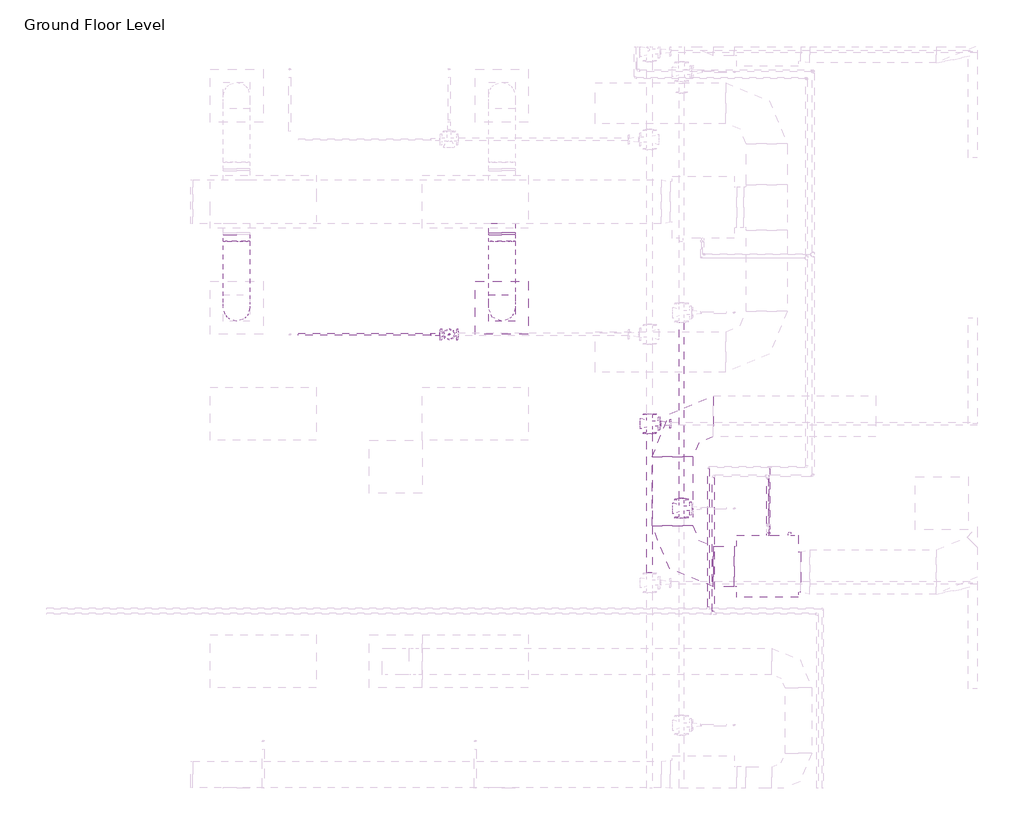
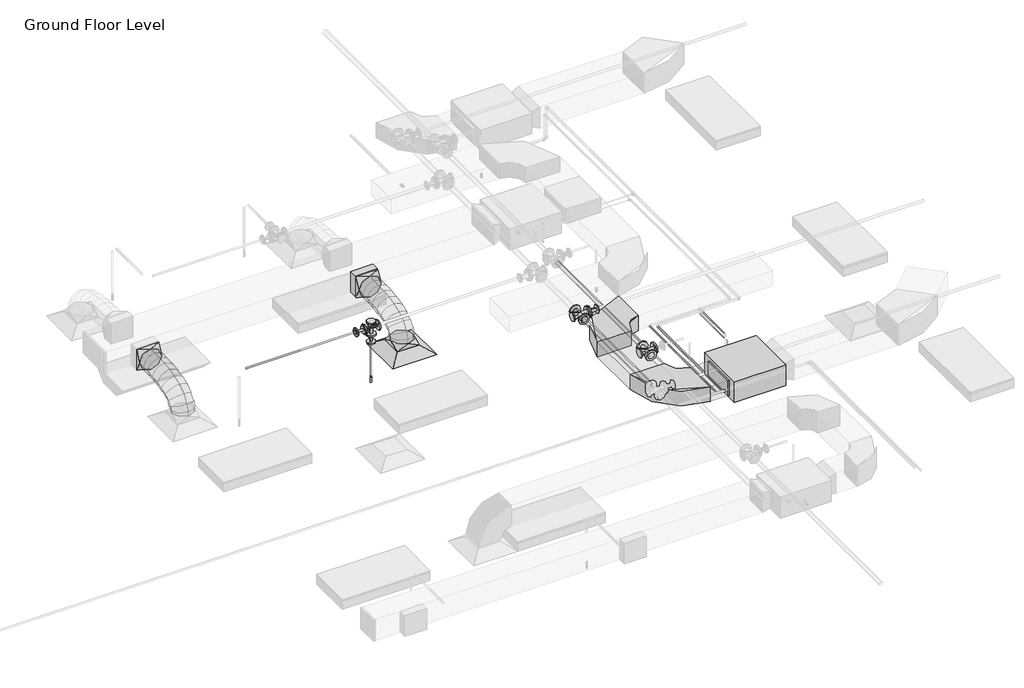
# One storey, part 59 of 74: 10 pipe segments, 7 pipe fittings, 6 duct fittings, 5 duct segments, 1 air terminal, 1 fire suppression terminal, 1 proxy.
"""IFC4 building model written with IfcOpenShell, lengths in millimetres."""

from ifc_helpers import new_model, si_unit, point, frame, frame_2d, origin, place, context, project, spatial, polyline, circle_curve, ellipse_curve, trimmed, segment, composite_curve, outline, extrude, transform, mapped, element, save
from ifc_brep_helpers import plane_surface, cylinder_surface, advanced_brep
from components import m_return_diffuser_600_x_600_face_300_x_300_connection_ff221211, fcu_daikin_iu_bad131e0, m_rectangular_elbow_radius_1_w_54c96895, m_rectangular_takeoff_standard_cb0ccb98, m_rectangular_to_round_transition_angle_45_degree_641efff0, m_sprinkler_dry_pendent_hosted_15_mm_dry_pendent_9bda8e11, m_elbow_generic_standard_2a704253, m_reducer_flanged_cs_class_150_standard_ccf252ad, m_reducer_flanged_cs_class_150_standard_a7631c35, m_tee_round_base_flanged_cs_class_150_standard_dd767e04, m_tee_round_base_flanged_cs_class_150_standard_7e5987a1, m_tee_round_base_flanged_cs_class_150_standard_ab36f383

model = new_model("IFC4")

# Units and contexts
model_context = context("Model", 3, world=origin())
ifc_project = project(units=[si_unit("LENGTHUNIT", "METRE", prefix="MILLI")], contexts=[model_context])

# Site, building, storey
site = spatial("IfcSite", under=ifc_project)
building = spatial("IfcBuilding", under=site)
storey = spatial("IfcBuildingStorey", under=building, Name="Ground Floor Level", Elevation=900.0)

# Air terminal
placement = place(None, origin())
m_return_diffuser_600_x_600_face_300_x_300_connection_shape = m_return_diffuser_600_x_600_face_300_x_300_connection_ff221211(model_context)
element("IfcAirTerminal", 1, ObjectType="M_Supply Diffuser : 600 x 600 Face 300 x 300 Connection", at=placement, inside=storey, context=model_context, shape_type="MappedRepresentation", body=[
    mapped(m_return_diffuser_600_x_600_face_300_x_300_connection_shape, transform((3962.7672395, 2935.2153534, 3650.0), x_axis=(1.0, 0.0, 0.0), y_axis=(0.0, 1.0, 0.0), z_axis=(0.0, 0.0, 1.0))),
])

# Proxy
fcu_daikin_iu_shape = fcu_daikin_iu_bad131e0(model_context)
element("IfcBuildingElementProxy", 2, Name="FCU-DAIKIN IU : 4.5kW, 230V/50Hz/1Ph", ObjectType="FCU-DAIKIN IU : 4.5kW, 230V/50Hz/1Ph", at=placement, inside=storey, context=model_context, shape_type="MappedRepresentation", body=[
    mapped(fcu_daikin_iu_shape, transform((6968.8139492, 9.6779527, 3934.0932729), x_axis=(0.0, 1.0, 0.0), y_axis=(-1.0, 0.0, 0.0), z_axis=(0.0, 0.0, 1.0))),
])

# Duct fittings
m_rectangular_elbow_radius_1_w_shape = m_rectangular_elbow_radius_1_w_54c96895(model_context)
element("IfcDuctFitting", 3, ObjectType="M_Rectangular Elbow - Radius : 1 W", at=placement, inside=storey, context=model_context, shape_type="MappedRepresentation", body=[
    mapped(m_rectangular_elbow_radius_1_w_shape, transform((5893.4139492, 9.6779527, 4075.2932729), x_axis=(0.0, -1.0, 0.0), y_axis=(1.0, 0.0, 0.0), z_axis=(0.0, 0.0, 1.0))),
])
element("IfcDuctFitting", 4, ObjectType="M_Rectangular Elbow - Radius : 1 W", at=placement, inside=storey, context=model_context, shape_type="MappedRepresentation", body=[
    mapped(m_rectangular_elbow_radius_1_w_shape, transform((5893.4139492, 1709.6783949, 4075.2932729), x_axis=(-1.0, 0.0, 0.0), y_axis=(0.0, -1.0, 0.0), z_axis=(0.0, 0.0, 1.0))),
])
m_rectangular_takeoff_standard_shape = m_rectangular_takeoff_standard_cb0ccb98(model_context)
element("IfcDuctFitting", 5, ObjectType="M_Rectangular Takeoff : Standard", at=placement, inside=storey, context=model_context, shape_type="MappedRepresentation", body=[
    mapped(m_rectangular_takeoff_standard_shape, transform((3962.7672395, 3885.0199167, 4099.9957478), x_axis=(0.0, -1.0, 0.0), y_axis=(-1.0, 0.0, 0.0), z_axis=(0.0, 0.0, -1.0))),
])
m_rectangular_to_round_transition_angle_45_degree_shape = m_rectangular_to_round_transition_angle_45_degree_641efff0(model_context)
element("IfcDuctFitting", 6, ObjectType="M_Rectangular to Round Transition - Angle : 45 Degree", at=placement, inside=storey, context=model_context, shape_type="MappedRepresentation", body=[
    mapped(m_rectangular_to_round_transition_angle_45_degree_shape, transform((3962.7672395, 2935.2153534, 3751.6), x_axis=(0.0, 0.0, 1.0), y_axis=(-1.0, 0.0, 0.0), z_axis=(0.0, -1.0, 0.0))),
])
element("IfcDuctFitting", 7, ObjectType="M_Rectangular to Round Transition - Angle : 45 Degree", at=placement, inside=storey, context=model_context, shape_type="MappedRepresentation", body=[
    mapped(m_rectangular_to_round_transition_angle_45_degree_shape, transform((3962.7672395, 3762.5555369, 4099.9957478), x_axis=(0.0, -1.0, 0.0), y_axis=(1.0, 0.0, 0.0), z_axis=(0.0, 0.0, 1.0))),
])
element("IfcDuctFitting", 8, ObjectType="M_Rectangular to Round Transition - Angle : 45 Degree", at=placement, inside=storey, context=model_context, shape_type="MappedRepresentation", body=[
    mapped(m_rectangular_to_round_transition_angle_45_degree_shape, transform((962.7672395, 3762.562617, 4099.9886676), x_axis=(0.0, -1.0, 0.0), y_axis=(1.0, 0.0, 0.0), z_axis=(0.0, 0.0, 1.0))),
])

# Duct segments
element("IfcDuctSegment", 9, ObjectType="Flex - Round", at=placement, inside=storey, context=model_context, shape_type="AdvancedBrep", body=[
    advanced_brep(
    [(4112.7672395, 2935.2153534, 3826.6), (3962.7672395, 2785.2153534, 3826.6), (3812.7672395, 2935.2153534, 3826.6), (3962.7672395, 3085.2153534, 3826.6), (4112.7672395, 2935.2153534, 3857.9378899), (3962.7672395, 2785.2153534, 3883.5813304), (3812.7672395, 2935.2153534, 3857.9378899), (3962.7672395, 3085.2153534, 3832.2944495), (4112.7672395, 2952.2314038, 3906.2506504), (3962.7672395, 2818.4936927, 3978.0667363), (3812.7672395, 2952.2314038, 3906.2506504), (3962.7672395, 3085.969115, 3834.4345644), (4112.7672395, 2999.4156052, 3968.7111185), (3962.7672395, 2895.2104338, 4079.6211427), (3812.7672395, 2999.4156052, 3968.7111185), (3962.7672395, 3103.6207766, 3857.8010943), (4112.7672395, 3070.9720324, 4016.0693384), (3962.7672395, 3002.0391237, 4150.3236188), (3812.7672395, 3070.9720324, 4016.0693384), (3962.7672395, 3139.9049411, 3881.8150579), (4112.7672395, 3161.1047605, 4050.413244), (3962.7672395, 3117.545251, 4194.3357287), (3812.7672395, 3161.1047605, 4050.413244), (3962.7672395, 3204.66427, 3906.4907592), (4112.7672395, 3264.0178643, 4073.8307693), (3962.7672395, 3237.4581287, 4221.6214946), (3812.7672395, 3264.0178643, 4073.8307693), (3962.7672395, 3290.5775999, 3926.0400441), (4112.7672395, 3373.9154189, 4088.4098484), (3962.7672395, 3358.7655495, 4237.7142137), (3812.7672395, 3373.9154189, 4088.4098484), (3962.7672395, 3389.0652883, 3939.1054831), (4112.7672395, 3485.0014992, 4096.2384151), (3962.7672395, 3477.4969747, 4246.0815706), (3812.7672395, 3485.0014992, 4096.2384151), (3962.7672395, 3492.5060238, 3946.3952596), (4112.7672395, 3591.4801802, 4099.4044036), (3962.7672395, 3588.7891594, 4249.3906816), (3812.7672395, 3591.4801802, 4099.4044036), (3962.7672395, 3594.1712011, 3949.4181256), (4112.7672395, 3687.5555369, 4099.9957478), (3962.7672395, 3688.47877, 3949.998589), (3812.7672395, 3687.5555369, 4099.9957478), (3962.7672395, 3686.6323039, 4249.9929065)],
    [
        (0, 1, circle_curve(frame((3962.7672395, 2935.2153534, 3826.6), z_axis=(0.0, 0.0, -1.0), x_axis=(1.0, 0.0, 0.0)), 150.0)),
        (1, 2, circle_curve(frame((3962.7672395, 2935.2153534, 3826.6), z_axis=(0.0, 0.0, -1.0), x_axis=(1.0, 0.0, 0.0)), 150.0)),
        (2, 3, circle_curve(frame((3962.7672395, 2935.2153534, 3826.6), z_axis=(0.0, 0.0, -1.0), x_axis=(1.0, 0.0, 0.0)), 150.0)),
        (3, 0, circle_curve(frame((3962.7672395, 2935.2153534, 3826.6), z_axis=(0.0, 0.0, -1.0), x_axis=(1.0, 0.0, 0.0)), 150.0)),
        (0, 4),
        (4, 5, ellipse_curve(frame((3962.7672395, 2935.2153534, 3857.9378899), z_axis=(0.0, -0.1685115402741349, -0.9856996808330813), x_axis=(0.0, 0.9856996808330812, -0.1685115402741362)), 152.1761678, 150.0)),
        (5, 1),
        (5, 6, ellipse_curve(frame((3962.7672395, 2935.2153534, 3857.9378899), z_axis=(0.0, -0.1685115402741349, -0.9856996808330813), x_axis=(0.0, 0.9856996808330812, -0.1685115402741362)), 152.1761678, 150.0)),
        (6, 2),
        (6, 7, ellipse_curve(frame((3962.7672395, 2935.2153534, 3857.9378899), z_axis=(0.0, -0.1685115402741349, -0.9856996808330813), x_axis=(0.0, 0.9856996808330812, -0.1685115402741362)), 152.1761678, 150.0)),
        (7, 3),
        (7, 4, ellipse_curve(frame((3962.7672395, 2935.2153534, 3857.9378899), z_axis=(0.0, -0.1685115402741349, -0.9856996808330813), x_axis=(0.0, 0.9856996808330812, -0.1685115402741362)), 152.1761678, 150.0)),
        (4, 8),
        (8, 9, ellipse_curve(frame((3962.7672395, 2952.2314038, 3906.2506504), z_axis=(0.0, -0.47309586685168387, -0.8810109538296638), x_axis=(0.0, 0.8810109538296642, -0.4730958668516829)), 151.8002819, 150.0)),
        (9, 5),
        (9, 10, ellipse_curve(frame((3962.7672395, 2952.2314038, 3906.2506504), z_axis=(0.0, -0.47309586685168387, -0.8810109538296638), x_axis=(0.0, 0.8810109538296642, -0.4730958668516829)), 151.8002819, 150.0)),
        (10, 6),
        (10, 11, ellipse_curve(frame((3962.7672395, 2952.2314038, 3906.2506504), z_axis=(0.0, -0.47309586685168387, -0.8810109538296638), x_axis=(0.0, 0.8810109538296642, -0.4730958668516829)), 151.8002819, 150.0)),
        (11, 7),
        (11, 8, ellipse_curve(frame((3962.7672395, 2952.2314038, 3906.2506504), z_axis=(0.0, -0.47309586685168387, -0.8810109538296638), x_axis=(0.0, 0.8810109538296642, -0.4730958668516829)), 151.8002819, 150.0)),
        (8, 12),
        (12, 13, ellipse_curve(frame((3962.7672395, 2999.4156052, 3968.7111185), z_axis=(0.0, -0.7287924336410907, -0.68473468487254), x_axis=(0.0, 0.6847346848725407, -0.7287924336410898)), 152.1832817, 150.0)),
        (13, 9),
        (13, 14, ellipse_curve(frame((3962.7672395, 2999.4156052, 3968.7111185), z_axis=(0.0, -0.7287924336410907, -0.68473468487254), x_axis=(0.0, 0.6847346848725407, -0.7287924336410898)), 152.1832817, 150.0)),
        (14, 10),
        (14, 15, ellipse_curve(frame((3962.7672395, 2999.4156052, 3968.7111185), z_axis=(0.0, -0.7287924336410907, -0.68473468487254), x_axis=(0.0, 0.6847346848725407, -0.7287924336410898)), 152.1832817, 150.0)),
        (15, 11),
        (15, 12, ellipse_curve(frame((3962.7672395, 2999.4156052, 3968.7111185), z_axis=(0.0, -0.7287924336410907, -0.68473468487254), x_axis=(0.0, 0.6847346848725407, -0.7287924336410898)), 152.1832817, 150.0)),
        (12, 16),
        (16, 17, ellipse_curve(frame((3962.7672395, 3070.9720324, 4016.0693384), z_axis=(0.0, -0.8895898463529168, -0.4567602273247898), x_axis=(0.0, 0.45676022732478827, -0.8895898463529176)), 150.9170558, 150.0)),
        (17, 13),
        (17, 18, ellipse_curve(frame((3962.7672395, 3070.9720324, 4016.0693384), z_axis=(0.0, -0.8895898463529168, -0.4567602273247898), x_axis=(0.0, 0.45676022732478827, -0.8895898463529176)), 150.9170558, 150.0)),
        (18, 14),
        (18, 19, ellipse_curve(frame((3962.7672395, 3070.9720324, 4016.0693384), z_axis=(0.0, -0.8895898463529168, -0.4567602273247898), x_axis=(0.0, 0.45676022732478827, -0.8895898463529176)), 150.9170558, 150.0)),
        (19, 15),
        (19, 16, ellipse_curve(frame((3962.7672395, 3070.9720324, 4016.0693384), z_axis=(0.0, -0.8895898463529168, -0.4567602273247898), x_axis=(0.0, 0.45676022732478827, -0.8895898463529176)), 150.9170558, 150.0)),
        (16, 20),
        (20, 21, ellipse_curve(frame((3962.7672395, 3161.1047605, 4050.413244), z_axis=(0.0, -0.9571228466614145, -0.28968233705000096), x_axis=(0.0, 0.2896823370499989, -0.9571228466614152)), 150.3699188, 150.0)),
        (21, 17),
        (21, 22, ellipse_curve(frame((3962.7672395, 3161.1047605, 4050.413244), z_axis=(0.0, -0.9571228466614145, -0.28968233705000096), x_axis=(0.0, 0.2896823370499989, -0.9571228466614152)), 150.3699188, 150.0)),
        (22, 18),
        (22, 23, ellipse_curve(frame((3962.7672395, 3161.1047605, 4050.413244), z_axis=(0.0, -0.9571228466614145, -0.28968233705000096), x_axis=(0.0, 0.2896823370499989, -0.9571228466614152)), 150.3699188, 150.0)),
        (23, 19),
        (23, 20, ellipse_curve(frame((3962.7672395, 3161.1047605, 4050.413244), z_axis=(0.0, -0.9571228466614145, -0.28968233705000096), x_axis=(0.0, 0.2896823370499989, -0.9571228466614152)), 150.3699188, 150.0)),
        (20, 24),
        (24, 25, ellipse_curve(frame((3962.7672395, 3264.0178643, 4073.8307693), z_axis=(0.0, -0.9842327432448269, -0.17687822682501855), x_axis=(0.0, 0.17687822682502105, -0.9842327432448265)), 150.1583099, 150.0)),
        (25, 21),
        (25, 26, ellipse_curve(frame((3962.7672395, 3264.0178643, 4073.8307693), z_axis=(0.0, -0.9842327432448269, -0.17687822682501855), x_axis=(0.0, 0.17687822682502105, -0.9842327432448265)), 150.1583099, 150.0)),
        (26, 22),
        (26, 27, ellipse_curve(frame((3962.7672395, 3264.0178643, 4073.8307693), z_axis=(0.0, -0.9842327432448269, -0.17687822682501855), x_axis=(0.0, 0.17687822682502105, -0.9842327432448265)), 150.1583099, 150.0)),
        (27, 23),
        (27, 24, ellipse_curve(frame((3962.7672395, 3264.0178643, 4073.8307693), z_axis=(0.0, -0.9842327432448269, -0.17687822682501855), x_axis=(0.0, 0.17687822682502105, -0.9842327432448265)), 150.1583099, 150.0)),
        (24, 28),
        (28, 29, ellipse_curve(frame((3962.7672395, 3373.9154189, 4088.4098484), z_axis=(0.0, -0.9948913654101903, -0.10095133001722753), x_axis=(0.0, 0.10095133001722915, -0.9948913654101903)), 150.0710233, 150.0)),
        (29, 25),
        (29, 30, ellipse_curve(frame((3962.7672395, 3373.9154189, 4088.4098484), z_axis=(0.0, -0.9948913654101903, -0.10095133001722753), x_axis=(0.0, 0.10095133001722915, -0.9948913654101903)), 150.0710233, 150.0)),
        (30, 26),
        (30, 31, ellipse_curve(frame((3962.7672395, 3373.9154189, 4088.4098484), z_axis=(0.0, -0.9948913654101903, -0.10095133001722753), x_axis=(0.0, 0.10095133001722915, -0.9948913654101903)), 150.0710233, 150.0)),
        (31, 27),
        (31, 28, ellipse_curve(frame((3962.7672395, 3373.9154189, 4088.4098484), z_axis=(0.0, -0.9948913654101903, -0.10095133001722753), x_axis=(0.0, 0.10095133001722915, -0.9948913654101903)), 150.0710233, 150.0)),
        (28, 32),
        (32, 33, ellipse_curve(frame((3962.7672395, 3485.0014992, 4096.2384151), z_axis=(0.0, -0.9987482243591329, -0.05001983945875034), x_axis=(0.0, 0.05001983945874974, -0.9987482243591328)), 150.0309606, 150.0)),
        (33, 29),
        (33, 34, ellipse_curve(frame((3962.7672395, 3485.0014992, 4096.2384151), z_axis=(0.0, -0.9987482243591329, -0.05001983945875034), x_axis=(0.0, 0.05001983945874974, -0.9987482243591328)), 150.0309606, 150.0)),
        (34, 30),
        (34, 35, ellipse_curve(frame((3962.7672395, 3485.0014992, 4096.2384151), z_axis=(0.0, -0.9987482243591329, -0.05001983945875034), x_axis=(0.0, 0.05001983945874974, -0.9987482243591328)), 150.0309606, 150.0)),
        (35, 31),
        (35, 32, ellipse_curve(frame((3962.7672395, 3485.0014992, 4096.2384151), z_axis=(0.0, -0.9987482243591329, -0.05001983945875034), x_axis=(0.0, 0.05001983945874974, -0.9987482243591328)), 150.0309606, 150.0)),
        (32, 36),
        (36, 37, ellipse_curve(frame((3962.7672395, 3591.4801802, 4099.4044036), z_axis=(0.0, -0.9998390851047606, -0.017938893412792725), x_axis=(0.0, 0.017938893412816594, -0.99983908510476)), 150.0104169, 150.0)),
        (37, 33),
        (37, 38, ellipse_curve(frame((3962.7672395, 3591.4801802, 4099.4044036), z_axis=(0.0, -0.9998390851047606, -0.017938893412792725), x_axis=(0.0, 0.017938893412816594, -0.99983908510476)), 150.0104169, 150.0)),
        (38, 34),
        (38, 39, ellipse_curve(frame((3962.7672395, 3591.4801802, 4099.4044036), z_axis=(0.0, -0.9998390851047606, -0.017938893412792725), x_axis=(0.0, 0.017938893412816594, -0.99983908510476)), 150.0104169, 150.0)),
        (39, 35),
        (39, 36, ellipse_curve(frame((3962.7672395, 3591.4801802, 4099.4044036), z_axis=(0.0, -0.9998390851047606, -0.017938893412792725), x_axis=(0.0, 0.017938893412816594, -0.99983908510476)), 150.0104169, 150.0)),
        (40, 41, circle_curve(frame((3962.7672395, 3687.5555369, 4099.9957478), z_axis=(0.0, 0.9999810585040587, 0.006154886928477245), x_axis=(1.0, 0.0, 0.0)), 150.0)),
        (41, 42, circle_curve(frame((3962.7672395, 3687.5555369, 4099.9957478), z_axis=(0.0, 0.9999810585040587, 0.006154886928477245), x_axis=(1.0, 0.0, 0.0)), 150.0)),
        (42, 43, circle_curve(frame((3962.7672395, 3687.5555369, 4099.9957478), z_axis=(0.0, 0.9999810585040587, 0.006154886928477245), x_axis=(1.0, 0.0, 0.0)), 150.0)),
        (43, 40, circle_curve(frame((3962.7672395, 3687.5555369, 4099.9957478), z_axis=(0.0, 0.9999810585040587, 0.006154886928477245), x_axis=(1.0, 0.0, 0.0)), 150.0)),
        (36, 40),
        (43, 37),
        (42, 38),
        (41, 39),
    ],
    [
        plane_surface(frame((3962.7672395, 2785.2153534, 3826.6), z_axis=(0.0, 0.0, -1.0), x_axis=(1.0, 0.0, 0.0))),
        cylinder_surface(frame((3962.7672395, 2935.2153534, 3826.6), z_axis=(0.0, 0.0, -1.0), x_axis=(1.0, 0.0, 0.0)), 150.0),
        cylinder_surface(frame((3962.7672395, 2935.2153534, 3857.9378899), z_axis=(0.0, -0.33220354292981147, -0.9432077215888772), x_axis=(1.0, 0.0, 0.0)), 150.0),
        cylinder_surface(frame((3962.7672395, 2952.2314038, 3906.2506504), z_axis=(0.0, -0.6027667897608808, -0.7979174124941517), x_axis=(1.0, 0.0, 0.0)), 150.0),
        cylinder_surface(frame((3962.7672395, 2999.4156052, 3968.7111185), z_axis=(0.0, -0.833906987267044, -0.5519050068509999), x_axis=(1.0, 0.0, 0.0)), 150.0),
        cylinder_surface(frame((3962.7672395, 3070.9720324, 4016.0693384), z_axis=(0.0, -0.9344614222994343, -0.35606439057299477), x_axis=(1.0, 0.0, 0.0)), 150.0),
        cylinder_surface(frame((3962.7672395, 3161.1047605, 4050.413244), z_axis=(0.0, -0.9750751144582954, -0.22187501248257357), x_axis=(1.0, 0.0, 0.0)), 150.0),
        cylinder_surface(frame((3962.7672395, 3264.0178643, 4073.8307693), z_axis=(0.0, -0.9913150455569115, -0.1315084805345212), x_axis=(1.0, 0.0, 0.0)), 150.0),
        cylinder_surface(frame((3962.7672395, 3373.9154189, 4088.4098484), z_axis=(0.0, -0.997525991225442, -0.07029862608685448), x_axis=(1.0, 0.0, 0.0)), 150.0),
        cylinder_surface(frame((3962.7672395, 3485.0014992, 4096.2384151), z_axis=(0.0, -0.9995582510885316, -0.029720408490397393), x_axis=(1.0, 0.0, 0.0)), 150.0),
        plane_surface(frame((3962.7672395, 3686.6323039, 4249.9929065), z_axis=(0.0, 0.9999810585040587, 0.006154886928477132), x_axis=(1.0, 0.0, 0.0))),
        cylinder_surface(frame((3962.7672395, 3591.4801802, 4099.4044036), z_axis=(0.0, -0.9999810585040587, -0.006154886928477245), x_axis=(1.0, 0.0, 0.0)), 150.0),
    ],
    [
        (0, [[1, 2, 3, 4]]),
        (1, [[-1, 5, 6, 7]]),
        (1, [[-2, -7, 8, 9]]),
        (1, [[-3, -9, 10, 11]]),
        (1, [[-4, -11, 12, -5]]),
        (2, [[-6, 13, 14, 15]]),
        (2, [[-8, -15, 16, 17]]),
        (2, [[-10, -17, 18, 19]]),
        (2, [[-12, -19, 20, -13]]),
        (3, [[-14, 21, 22, 23]]),
        (3, [[-16, -23, 24, 25]]),
        (3, [[-18, -25, 26, 27]]),
        (3, [[-20, -27, 28, -21]]),
        (4, [[-22, 29, 30, 31]]),
        (4, [[-24, -31, 32, 33]]),
        (4, [[-26, -33, 34, 35]]),
        (4, [[-28, -35, 36, -29]]),
        (5, [[-30, 37, 38, 39]]),
        (5, [[-32, -39, 40, 41]]),
        (5, [[-34, -41, 42, 43]]),
        (5, [[-36, -43, 44, -37]]),
        (6, [[-38, 45, 46, 47]]),
        (6, [[-40, -47, 48, 49]]),
        (6, [[-42, -49, 50, 51]]),
        (6, [[-44, -51, 52, -45]]),
        (7, [[-46, 53, 54, 55]]),
        (7, [[-48, -55, 56, 57]]),
        (7, [[-50, -57, 58, 59]]),
        (7, [[-52, -59, 60, -53]]),
        (8, [[-54, 61, 62, 63]]),
        (8, [[-56, -63, 64, 65]]),
        (8, [[-58, -65, 66, 67]]),
        (8, [[-60, -67, 68, -61]]),
        (9, [[-62, 69, 70, 71]]),
        (9, [[-64, -71, 72, 73]]),
        (9, [[-66, -73, 74, 75]]),
        (9, [[-68, -75, 76, -69]]),
        (10, [[77, 78, 79, 80]]),
        (11, [[-70, 81, -80, 82]]),
        (11, [[-72, -82, -79, 83]]),
        (11, [[-74, -83, -78, 84]]),
        (11, [[-76, -84, -77, -81]]),
    ],
),
])
element("IfcDuctSegment", 10, ObjectType="Flex - Round", at=placement, inside=storey, context=model_context, shape_type="AdvancedBrep", body=[
    advanced_brep(
    [(1112.7672395, 2935.2153534, 3826.6), (962.7672395, 2785.2153534, 3826.6), (812.7672395, 2935.2153534, 3826.6), (962.7672395, 3085.2153534, 3826.6), (1112.7672395, 2935.2153534, 3857.9381871), (962.7672395, 2785.2153534, 3883.5819907), (812.7672395, 2935.2153534, 3857.9381871), (962.7672395, 3085.2153534, 3832.2943835), (1112.7672395, 2952.2316002, 3906.2507795), (962.7672395, 2818.4943349, 3978.0678013), (812.7672395, 2952.2316002, 3906.2507795), (962.7672395, 3085.9688654, 3834.4337577), (1112.7672395, 2999.416336, 3968.7107945), (962.7672395, 2895.2123764, 4079.622042), (812.7672395, 2999.416336, 3968.7107945), (962.7672395, 3103.6202956, 3857.7995469), (1112.7672395, 3070.9735542, 4016.0681304), (962.7672395, 3002.0425552, 4150.3234022), (812.7672395, 3070.9735542, 4016.0681304), (962.7672395, 3139.9045533, 3881.8128585), (1112.7672395, 3161.1072481, 4050.4108726), (962.7672395, 3117.549826, 4194.3339853), (812.7672395, 3161.1072481, 4050.4108726), (962.7672395, 3204.6646702, 3906.4877598), (1112.7672395, 3264.0214108, 4073.8271066), (962.7672395, 3237.463654, 4221.618182), (812.7672395, 3264.0214108, 4073.8271066), (962.7672395, 3290.5791677, 3926.0360311), (1112.7672395, 3373.9200359, 4088.4049176), (962.7672395, 3358.7718863, 4237.7094524), (812.7672395, 3373.9200359, 4088.4049176), (962.7672395, 3389.0681854, 3939.1003829), (1112.7672395, 3485.0071164, 4096.2323912), (962.7672395, 3477.5039298, 4246.0756092), (812.7672395, 3485.0071164, 4096.2323912), (962.7672395, 3492.5103029, 3946.3891733), (1112.7672395, 3591.4866457, 4099.3976128), (962.7672395, 3588.796411, 4249.383901), (812.7672395, 3591.4866457, 4099.3976128), (962.7672395, 3594.1768803, 3949.4113245), (1112.7672395, 3687.562617, 4099.9886676), (962.7672395, 3688.4853925, 3949.991506), (812.7672395, 3687.562617, 4099.9886676), (962.7672395, 3686.6398415, 4249.9858292)],
    [
        (0, 1, circle_curve(frame((962.7672395, 2935.2153534, 3826.6), z_axis=(0.0, 0.0, -1.0), x_axis=(1.0, 0.0, 0.0)), 150.0)),
        (1, 2, circle_curve(frame((962.7672395, 2935.2153534, 3826.6), z_axis=(0.0, 0.0, -1.0), x_axis=(1.0, 0.0, 0.0)), 150.0)),
        (2, 3, circle_curve(frame((962.7672395, 2935.2153534, 3826.6), z_axis=(0.0, 0.0, -1.0), x_axis=(1.0, 0.0, 0.0)), 150.0)),
        (3, 0, circle_curve(frame((962.7672395, 2935.2153534, 3826.6), z_axis=(0.0, 0.0, -1.0), x_axis=(1.0, 0.0, 0.0)), 150.0)),
        (0, 4),
        (4, 5, ellipse_curve(frame((962.7672395, 2935.2153534, 3857.9381871), z_axis=(0.0, -0.16851385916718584, -0.9856992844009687), x_axis=(0.0, 0.9856992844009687, -0.16851385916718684)), 152.176229, 150.0)),
        (5, 1),
        (5, 6, ellipse_curve(frame((962.7672395, 2935.2153534, 3857.9381871), z_axis=(0.0, -0.16851385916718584, -0.9856992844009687), x_axis=(0.0, 0.9856992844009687, -0.16851385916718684)), 152.176229, 150.0)),
        (6, 2),
        (6, 7, ellipse_curve(frame((962.7672395, 2935.2153534, 3857.9381871), z_axis=(0.0, -0.16851385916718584, -0.9856992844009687), x_axis=(0.0, 0.9856992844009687, -0.16851385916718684)), 152.176229, 150.0)),
        (7, 3),
        (7, 4, ellipse_curve(frame((962.7672395, 2935.2153534, 3857.9381871), z_axis=(0.0, -0.16851385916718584, -0.9856992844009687), x_axis=(0.0, 0.9856992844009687, -0.16851385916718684)), 152.176229, 150.0)),
        (4, 8),
        (8, 9, ellipse_curve(frame((962.7672395, 2952.2316002, 3906.2507795), z_axis=(0.0, -0.47310187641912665, -0.8810077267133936), x_axis=(0.0, 0.881007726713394, -0.47310187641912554)), 151.8003318, 150.0)),
        (9, 5),
        (9, 10, ellipse_curve(frame((962.7672395, 2952.2316002, 3906.2507795), z_axis=(0.0, -0.47310187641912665, -0.8810077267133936), x_axis=(0.0, 0.881007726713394, -0.47310187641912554)), 151.8003318, 150.0)),
        (10, 6),
        (10, 11, ellipse_curve(frame((962.7672395, 2952.2316002, 3906.2507795), z_axis=(0.0, -0.47310187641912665, -0.8810077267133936), x_axis=(0.0, 0.881007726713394, -0.47310187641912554)), 151.8003318, 150.0)),
        (11, 7),
        (11, 8, ellipse_curve(frame((962.7672395, 2952.2316002, 3906.2507795), z_axis=(0.0, -0.47310187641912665, -0.8810077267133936), x_axis=(0.0, 0.881007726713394, -0.47310187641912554)), 151.8003318, 150.0)),
        (8, 12),
        (12, 13, ellipse_curve(frame((962.7672395, 2999.416336, 3968.7107945), z_axis=(0.0, -0.7288001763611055, -0.6847264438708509), x_axis=(0.0, 0.6847264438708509, -0.7288001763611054)), 152.1833434, 150.0)),
        (13, 9),
        (13, 14, ellipse_curve(frame((962.7672395, 2999.416336, 3968.7107945), z_axis=(0.0, -0.7288001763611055, -0.6847264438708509), x_axis=(0.0, 0.6847264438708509, -0.7288001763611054)), 152.1833434, 150.0)),
        (14, 10),
        (14, 15, ellipse_curve(frame((962.7672395, 2999.416336, 3968.7107945), z_axis=(0.0, -0.7288001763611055, -0.6847264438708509), x_axis=(0.0, 0.6847264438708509, -0.7288001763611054)), 152.1833434, 150.0)),
        (15, 11),
        (15, 12, ellipse_curve(frame((962.7672395, 2999.416336, 3968.7107945), z_axis=(0.0, -0.7288001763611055, -0.6847264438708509), x_axis=(0.0, 0.6847264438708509, -0.7288001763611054)), 152.1833434, 150.0)),
        (12, 16),
        (16, 17, ellipse_curve(frame((962.7672395, 3070.9735542, 4016.0681304), z_axis=(0.0, -0.8895963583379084, -0.45674754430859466), x_axis=(0.0, 0.4567475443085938, -0.8895963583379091)), 150.9170655, 150.0)),
        (17, 13),
        (17, 18, ellipse_curve(frame((962.7672395, 3070.9735542, 4016.0681304), z_axis=(0.0, -0.8895963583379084, -0.45674754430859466), x_axis=(0.0, 0.4567475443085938, -0.8895963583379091)), 150.9170655, 150.0)),
        (18, 14),
        (18, 19, ellipse_curve(frame((962.7672395, 3070.9735542, 4016.0681304), z_axis=(0.0, -0.8895963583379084, -0.45674754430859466), x_axis=(0.0, 0.4567475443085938, -0.8895963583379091)), 150.9170655, 150.0)),
        (19, 15),
        (19, 16, ellipse_curve(frame((962.7672395, 3070.9735542, 4016.0681304), z_axis=(0.0, -0.8895963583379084, -0.45674754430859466), x_axis=(0.0, 0.4567475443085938, -0.8895963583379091)), 150.9170655, 150.0)),
        (16, 20),
        (20, 21, ellipse_curve(frame((962.7672395, 3161.1072481, 4050.4108726), z_axis=(0.0, -0.9571270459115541, -0.2896684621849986), x_axis=(0.0, 0.2896684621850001, -0.9571270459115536)), 150.3699152, 150.0)),
        (21, 17),
        (21, 22, ellipse_curve(frame((962.7672395, 3161.1072481, 4050.4108726), z_axis=(0.0, -0.9571270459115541, -0.2896684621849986), x_axis=(0.0, 0.2896684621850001, -0.9571270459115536)), 150.3699152, 150.0)),
        (22, 18),
        (22, 23, ellipse_curve(frame((962.7672395, 3161.1072481, 4050.4108726), z_axis=(0.0, -0.9571270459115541, -0.2896684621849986), x_axis=(0.0, 0.2896684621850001, -0.9571270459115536)), 150.3699152, 150.0)),
        (23, 19),
        (23, 20, ellipse_curve(frame((962.7672395, 3161.1072481, 4050.4108726), z_axis=(0.0, -0.9571270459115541, -0.2896684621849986), x_axis=(0.0, 0.2896684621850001, -0.9571270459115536)), 150.3699152, 150.0)),
        (20, 24),
        (24, 25, ellipse_curve(frame((962.7672395, 3264.0214108, 4073.8271066), z_axis=(0.0, -0.984235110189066, -0.1768650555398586), x_axis=(0.0, 0.1768650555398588, -0.984235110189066)), 150.1583045, 150.0)),
        (25, 21),
        (25, 26, ellipse_curve(frame((962.7672395, 3264.0214108, 4073.8271066), z_axis=(0.0, -0.984235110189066, -0.1768650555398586), x_axis=(0.0, 0.1768650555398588, -0.984235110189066)), 150.1583045, 150.0)),
        (26, 22),
        (26, 27, ellipse_curve(frame((962.7672395, 3264.0214108, 4073.8271066), z_axis=(0.0, -0.984235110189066, -0.1768650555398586), x_axis=(0.0, 0.1768650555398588, -0.984235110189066)), 150.1583045, 150.0)),
        (27, 23),
        (27, 24, ellipse_curve(frame((962.7672395, 3264.0214108, 4073.8271066), z_axis=(0.0, -0.984235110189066, -0.1768650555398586), x_axis=(0.0, 0.1768650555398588, -0.984235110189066)), 150.1583045, 150.0)),
        (24, 28),
        (28, 29, ellipse_curve(frame((962.7672395, 3373.9200359, 4088.4049176), z_axis=(0.0, -0.9948925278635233, -0.10093987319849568), x_axis=(0.0, 0.10093987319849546, -0.9948925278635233)), 150.0710183, 150.0)),
        (29, 25),
        (29, 30, ellipse_curve(frame((962.7672395, 3373.9200359, 4088.4049176), z_axis=(0.0, -0.9948925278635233, -0.10093987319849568), x_axis=(0.0, 0.10093987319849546, -0.9948925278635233)), 150.0710183, 150.0)),
        (30, 26),
        (30, 31, ellipse_curve(frame((962.7672395, 3373.9200359, 4088.4049176), z_axis=(0.0, -0.9948925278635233, -0.10093987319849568), x_axis=(0.0, 0.10093987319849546, -0.9948925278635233)), 150.0710183, 150.0)),
        (31, 27),
        (31, 28, ellipse_curve(frame((962.7672395, 3373.9200359, 4088.4049176), z_axis=(0.0, -0.9948925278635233, -0.10093987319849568), x_axis=(0.0, 0.10093987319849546, -0.9948925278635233)), 150.0710183, 150.0)),
        (28, 32),
        (32, 33, ellipse_curve(frame((962.7672395, 3485.0071164, 4096.2323912), z_axis=(0.0, -0.9987486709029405, -0.050010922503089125), x_axis=(0.0, 0.05001092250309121, -0.9987486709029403)), 150.0309561, 150.0)),
        (33, 29),
        (33, 34, ellipse_curve(frame((962.7672395, 3485.0071164, 4096.2323912), z_axis=(0.0, -0.9987486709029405, -0.050010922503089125), x_axis=(0.0, 0.05001092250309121, -0.9987486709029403)), 150.0309561, 150.0)),
        (34, 30),
        (34, 35, ellipse_curve(frame((962.7672395, 3485.0071164, 4096.2323912), z_axis=(0.0, -0.9987486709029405, -0.050010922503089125), x_axis=(0.0, 0.05001092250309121, -0.9987486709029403)), 150.0309561, 150.0)),
        (35, 31),
        (35, 32, ellipse_curve(frame((962.7672395, 3485.0071164, 4096.2323912), z_axis=(0.0, -0.9987486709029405, -0.050010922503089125), x_axis=(0.0, 0.05001092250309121, -0.9987486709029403)), 150.0309561, 150.0)),
        (32, 36),
        (36, 37, ellipse_curve(frame((962.7672395, 3591.4866457, 4099.3976128), z_axis=(0.0, -0.9998391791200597, -0.017933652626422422), x_axis=(0.0, 0.01793365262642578, -0.9998391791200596)), 150.0104131, 150.0)),
        (37, 33),
        (37, 38, ellipse_curve(frame((962.7672395, 3591.4866457, 4099.3976128), z_axis=(0.0, -0.9998391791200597, -0.017933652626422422), x_axis=(0.0, 0.01793365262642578, -0.9998391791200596)), 150.0104131, 150.0)),
        (38, 34),
        (38, 39, ellipse_curve(frame((962.7672395, 3591.4866457, 4099.3976128), z_axis=(0.0, -0.9998391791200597, -0.017933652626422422), x_axis=(0.0, 0.01793365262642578, -0.9998391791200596)), 150.0104131, 150.0)),
        (39, 35),
        (39, 36, ellipse_curve(frame((962.7672395, 3591.4866457, 4099.3976128), z_axis=(0.0, -0.9998391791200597, -0.017933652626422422), x_axis=(0.0, 0.01793365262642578, -0.9998391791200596)), 150.0104131, 150.0)),
        (40, 41, circle_curve(frame((962.7672395, 3687.562617, 4099.9886676), z_axis=(0.0, 0.9999810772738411, 0.006151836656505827), x_axis=(1.0, 0.0, 0.0)), 150.0)),
        (41, 42, circle_curve(frame((962.7672395, 3687.562617, 4099.9886676), z_axis=(0.0, 0.9999810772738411, 0.006151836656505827), x_axis=(1.0, 0.0, 0.0)), 150.0)),
        (42, 43, circle_curve(frame((962.7672395, 3687.562617, 4099.9886676), z_axis=(0.0, 0.9999810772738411, 0.006151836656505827), x_axis=(1.0, 0.0, 0.0)), 150.0)),
        (43, 40, circle_curve(frame((962.7672395, 3687.562617, 4099.9886676), z_axis=(0.0, 0.9999810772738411, 0.006151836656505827), x_axis=(1.0, 0.0, 0.0)), 150.0)),
        (36, 40),
        (43, 37),
        (42, 38),
        (41, 39),
    ],
    [
        plane_surface(frame((962.7672395, 2785.2153534, 3826.6), z_axis=(0.0, 0.0, -1.0), x_axis=(1.0, 0.0, 0.0))),
        cylinder_surface(frame((962.7672395, 2935.2153534, 3826.6), z_axis=(0.0, 0.0, -1.0), x_axis=(1.0, 0.0, 0.0)), 150.0),
        cylinder_surface(frame((962.7672395, 2935.2153534, 3857.9381871), z_axis=(0.0, -0.33220798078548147, -0.9432061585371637), x_axis=(1.0, 0.0, 0.0)), 150.0),
        cylinder_surface(frame((962.7672395, 2952.2316002, 3906.2507795), z_axis=(0.0, -0.6027739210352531, -0.7979120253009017), x_axis=(1.0, 0.0, 0.0)), 150.0),
        cylinder_surface(frame((962.7672395, 2999.416336, 3968.7107945), z_axis=(0.0, -0.83391453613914, -0.5518936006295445), x_axis=(1.0, 0.0, 0.0)), 150.0),
        cylinder_surface(frame((962.7672395, 3070.9735542, 4016.0681304), z_axis=(0.0, -0.9344667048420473, -0.35605052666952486), x_axis=(1.0, 0.0, 0.0)), 150.0),
        cylinder_surface(frame((962.7672395, 3161.1072481, 4050.4108726), z_axis=(0.0, -0.975078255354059, -0.22186120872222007), x_axis=(1.0, 0.0, 0.0)), 150.0),
        cylinder_surface(frame((962.7672395, 3264.0214108, 4073.8271066), z_axis=(0.0, -0.9913167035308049, -0.1314959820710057), x_axis=(1.0, 0.0, 0.0)), 150.0),
        cylinder_surface(frame((962.7672395, 3373.9200359, 4088.4049176), z_axis=(0.0, -0.9975267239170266, -0.07028822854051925), x_axis=(1.0, 0.0, 0.0)), 150.0),
        cylinder_surface(frame((962.7672395, 3485.0071164, 4096.2323912), z_axis=(0.0, -0.9995584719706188, -0.029712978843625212), x_axis=(1.0, 0.0, 0.0)), 150.0),
        plane_surface(frame((962.7672395, 3686.6398415, 4249.9858292), z_axis=(0.0, 0.9999810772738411, 0.00615183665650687), x_axis=(1.0, 0.0, 0.0))),
        cylinder_surface(frame((962.7672395, 3591.4866457, 4099.3976128), z_axis=(0.0, -0.9999810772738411, -0.006151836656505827), x_axis=(1.0, 0.0, 0.0)), 150.0),
    ],
    [
        (0, [[1, 2, 3, 4]]),
        (1, [[-1, 5, 6, 7]]),
        (1, [[-2, -7, 8, 9]]),
        (1, [[-3, -9, 10, 11]]),
        (1, [[-4, -11, 12, -5]]),
        (2, [[-6, 13, 14, 15]]),
        (2, [[-8, -15, 16, 17]]),
        (2, [[-10, -17, 18, 19]]),
        (2, [[-12, -19, 20, -13]]),
        (3, [[-14, 21, 22, 23]]),
        (3, [[-16, -23, 24, 25]]),
        (3, [[-18, -25, 26, 27]]),
        (3, [[-20, -27, 28, -21]]),
        (4, [[-22, 29, 30, 31]]),
        (4, [[-24, -31, 32, 33]]),
        (4, [[-26, -33, 34, 35]]),
        (4, [[-28, -35, 36, -29]]),
        (5, [[-30, 37, 38, 39]]),
        (5, [[-32, -39, 40, 41]]),
        (5, [[-34, -41, 42, 43]]),
        (5, [[-36, -43, 44, -37]]),
        (6, [[-38, 45, 46, 47]]),
        (6, [[-40, -47, 48, 49]]),
        (6, [[-42, -49, 50, 51]]),
        (6, [[-44, -51, 52, -45]]),
        (7, [[-46, 53, 54, 55]]),
        (7, [[-48, -55, 56, 57]]),
        (7, [[-50, -57, 58, 59]]),
        (7, [[-52, -59, 60, -53]]),
        (8, [[-54, 61, 62, 63]]),
        (8, [[-56, -63, 64, 65]]),
        (8, [[-58, -65, 66, 67]]),
        (8, [[-60, -67, 68, -61]]),
        (9, [[-62, 69, 70, 71]]),
        (9, [[-64, -71, 72, 73]]),
        (9, [[-66, -73, 74, 75]]),
        (9, [[-68, -75, 76, -69]]),
        (10, [[77, 78, 79, 80]]),
        (11, [[-70, 81, -80, 82]]),
        (11, [[-72, -82, -79, 83]]),
        (11, [[-74, -83, -78, 84]]),
        (11, [[-76, -84, -77, -81]]),
    ],
),
])
element("IfcDuctSegment", 11, ObjectType="Radius Elbows / Taps", at=placement, inside=storey, context=model_context, shape_type="SweptSolid", body=[
    extrude(outline(polyline([(6593.4139492, 240.6154527), (6593.4139492, -221.2595473), (6355.2889492, -221.2595473), (6355.2889492, 240.6154527), (6593.4139492, 240.6154527)])), frame((0.0, 0.0, 3968.1432729), z_axis=(0.0, 0.0, 1.0), x_axis=(1.0, 0.0, 0.0)), (0.0, 0.0, 1.0), 214.3),
])
element("IfcDuctSegment", 12, ObjectType="Radius Elbows / Taps", at=placement, inside=storey, context=model_context, shape_type="SweptSolid", body=[
    extrude(outline(polyline([(6124.3514492, 471.5529527), (5662.4764492, 471.5529527), (5662.4764492, 1247.8033949), (6124.3514492, 1247.8033949), (6124.3514492, 471.5529527)])), frame((0.0, 0.0, 3968.1432729), z_axis=(0.0, 0.0, 1.0), x_axis=(1.0, 0.0, 0.0)), (0.0, 0.0, 1.0), 214.3),
])
element("IfcDuctSegment", 13, ObjectType="Radius Elbows / Taps", at=placement, inside=storey, context=model_context, shape_type="SweptSolid", body=[
    extrude(outline(polyline([(3812.7672395, 3783.4199167), (4112.7672395, 3783.4199167), (4112.7672395, 3762.5555369), (3812.7672395, 3762.5555369), (3812.7672395, 3783.4199167)])), frame((0.0, 0.0, 3949.9957478), z_axis=(0.0, 0.0, 1.0), x_axis=(1.0, 0.0, 0.0)), (0.0, 0.0, 1.0), 300.0),
])

# Fire suppression terminal
m_sprinkler_dry_pendent_hosted_15_mm_dry_pendent_shape = m_sprinkler_dry_pendent_hosted_15_mm_dry_pendent_9bda8e11(model_context)
element("IfcFireSuppressionTerminal", 14, ObjectType="M_Sprinkler - Dry - Pendent - Hosted : 15 mm Dry Pendent", at=placement, inside=storey, context=model_context, shape_type="MappedRepresentation", body=[
    mapped(m_sprinkler_dry_pendent_hosted_15_mm_dry_pendent_shape, transform((3367.3772563, 2635.2153534, 3650.0), x_axis=(1.0, 0.0, 0.0), y_axis=(0.0, -1.0, 0.0), z_axis=(0.0, 0.0, -1.0))),
])

# Pipe fittings
m_elbow_generic_standard_shape = m_elbow_generic_standard_2a704253(model_context)
element("IfcPipeFitting", 15, ObjectType="M_Elbow - Generic : Standard", at=placement, inside=storey, context=model_context, shape_type="MappedRepresentation", body=[
    mapped(m_elbow_generic_standard_shape, transform((6993.8139492, 474.3157767, 4084.8932729), x_axis=(0.0, 1.0, 0.0), y_axis=(0.0, 0.0, 1.0), z_axis=(1.0, 0.0, 0.0))),
])
m_reducer_flanged_cs_class_150_standard_shape = m_reducer_flanged_cs_class_150_standard_ccf252ad(model_context)
element("IfcPipeFitting", 16, ObjectType="M_Reducer - Flanged - CS - Class 150 : Standard", at=placement, inside=storey, context=model_context, shape_type="MappedRepresentation", body=[
    mapped(m_reducer_flanged_cs_class_150_standard_shape, transform((3266.6686625, 2635.2153534, 4360.0), x_axis=(-1.0, 0.0, 0.0), y_axis=(0.0, 0.0, 1.0), z_axis=(0.0, 1.0, 0.0))),
])
element("IfcPipeFitting", 17, ObjectType="M_Reducer - Flanged - CS - Class 150 : Standard", at=placement, inside=storey, context=model_context, shape_type="MappedRepresentation", body=[
    mapped(m_reducer_flanged_cs_class_150_standard_shape, transform((3367.3772563, 2635.2153534, 4259.2914062), x_axis=(0.0, 0.0, -1.0), y_axis=(-1.0, 0.0, 0.0), z_axis=(0.0, 1.0, 0.0))),
])
m_reducer_flanged_cs_class_150_standard_2_shape = m_reducer_flanged_cs_class_150_standard_a7631c35(model_context)
element("IfcPipeFitting", 18, ObjectType="M_Reducer - Flanged - CS - Class 150 : Standard", at=placement, inside=storey, context=model_context, shape_type="MappedRepresentation", body=[
    mapped(m_reducer_flanged_cs_class_150_standard_2_shape, transform((5749.869498, 1625.2153534, 4360.0), x_axis=(1.0, 0.0, 0.0), y_axis=(0.0, 0.0, 1.0), z_axis=(0.0, -1.0, 0.0))),
])
m_tee_round_base_flanged_cs_class_150_standard_shape = m_tee_round_base_flanged_cs_class_150_standard_dd767e04(model_context)
element("IfcPipeFitting", 19, ObjectType="M_Tee Round Base - Flanged - CS - Class 150 : Standard", at=placement, inside=storey, context=model_context, shape_type="MappedRepresentation", body=[
    mapped(m_tee_round_base_flanged_cs_class_150_standard_shape, transform((5635.869498, 1625.2153534, 4360.0), x_axis=(0.0, 1.0, 0.0), y_axis=(-1.0, 0.0, 0.0), z_axis=(0.0, 0.0, 1.0))),
])
m_tee_round_base_flanged_cs_class_150_standard_2_shape = m_tee_round_base_flanged_cs_class_150_standard_7e5987a1(model_context)
element("IfcPipeFitting", 20, ObjectType="M_Tee Round Base - Flanged - CS - Class 150 : Standard", at=placement, inside=storey, context=model_context, shape_type="MappedRepresentation", body=[
    mapped(m_tee_round_base_flanged_cs_class_150_standard_2_shape, transform((3367.3772563, 2635.2153534, 4360.0), x_axis=(-1.0, 0.0, 0.0), y_axis=(0.0, 0.0, 1.0), z_axis=(0.0, 1.0, 0.0))),
])
m_tee_round_base_flanged_cs_class_150_standard_3_shape = m_tee_round_base_flanged_cs_class_150_standard_ab36f383(model_context)
element("IfcPipeFitting", 21, ObjectType="M_Tee Round Base - Flanged - CS - Class 150 : Standard", at=placement, inside=storey, context=model_context, shape_type="MappedRepresentation", body=[
    mapped(m_tee_round_base_flanged_cs_class_150_standard_3_shape, transform((5997.057812, 666.6492065, 4290.0), x_axis=(0.0, 1.0, 0.0), y_axis=(-1.0, 0.0, 0.0), z_axis=(0.0, 0.0, 1.0))),
])

# Pipe segments
element("IfcPipeSegment", 22, ObjectType="Copper", at=placement, inside=storey, context=model_context, shape_type="SweptSolid", body=[
    extrude(outline(composite_curve([segment(trimmed(circle_curve(frame_2d((4265.0, 6302.4595152)), 8.1), [point((4265.0, 6294.3595152))], [point((4256.9, 6302.4595152))], False, "CARTESIAN"), True, "CONTINUOUS"), segment(trimmed(circle_curve(frame_2d((4265.0, 6302.4595152)), 8.1), [point((4256.9, 6302.4595152))], [point((4265.0, 6310.5595152))], False, "CARTESIAN"), True, "CONTINUOUS"), segment(trimmed(circle_curve(frame_2d((4265.0, 6302.4595152)), 8.1), [point((4265.0, 6310.5595152))], [point((4273.1, 6302.4595152))], False, "CARTESIAN"), True, "CONTINUOUS"), segment(trimmed(circle_curve(frame_2d((4265.0, 6302.4595152)), 8.1), [point((4273.1, 6302.4595152))], [point((4265.0, 6294.3595152))], False, "CARTESIAN"), True, "CONTINUOUS")], self_intersect=False)), frame((0.0, -443.7564862, 0.0), z_axis=(0.0, 1.0, 0.0), x_axis=(0.0, 0.0, 1.0)), (0.0, 0.0, 1.0), 1561.9),
])
element("IfcPipeSegment", 23, ObjectType="Copper", at=placement, inside=storey, context=model_context, shape_type="SweptSolid", body=[
    extrude(outline(composite_curve([segment(trimmed(circle_curve(frame_2d((4300.0, 6355.3210494)), 11.5), [point((4300.0, 6343.8210494))], [point((4288.5, 6355.3210494))], False, "CARTESIAN"), True, "CONTINUOUS"), segment(trimmed(circle_curve(frame_2d((4300.0, 6355.3210494)), 11.5), [point((4288.5, 6355.3210494))], [point((4300.0, 6366.8210494))], False, "CARTESIAN"), True, "CONTINUOUS"), segment(trimmed(circle_curve(frame_2d((4300.0, 6355.3210494)), 11.5), [point((4300.0, 6366.8210494))], [point((4311.5, 6355.3210494))], False, "CARTESIAN"), True, "CONTINUOUS"), segment(trimmed(circle_curve(frame_2d((4300.0, 6355.3210494)), 11.5), [point((4311.5, 6355.3210494))], [point((4300.0, 6343.8210494))], False, "CARTESIAN"), True, "CONTINUOUS")], self_intersect=False)), frame((0.0, -498.5901455, 0.0), z_axis=(0.0, 1.0, 0.0), x_axis=(0.0, 0.0, 1.0)), (0.0, 0.0, 1.0), 1515.55),
])
element("IfcPipeSegment", 24, ObjectType="Copper", at=placement, inside=storey, context=model_context, shape_type="SweptSolid", body=[
    extrude(outline(composite_curve([segment(trimmed(circle_curve(frame_2d((4200.0, 6993.8139492)), 3.35), [point((4200.0, 6997.1639492))], [point((4203.35, 6993.8139492))], False, "CARTESIAN"), True, "CONTINUOUS"), segment(trimmed(circle_curve(frame_2d((4200.0, 6993.8139492)), 3.35), [point((4203.35, 6993.8139492))], [point((4200.0, 6990.4639492))], False, "CARTESIAN"), True, "CONTINUOUS"), segment(trimmed(circle_curve(frame_2d((4200.0, 6993.8139492)), 3.35), [point((4200.0, 6990.4639492))], [point((4196.65, 6993.8139492))], False, "CARTESIAN"), True, "CONTINUOUS"), segment(trimmed(circle_curve(frame_2d((4200.0, 6993.8139492)), 3.35), [point((4196.65, 6993.8139492))], [point((4200.0, 6997.1639492))], False, "CARTESIAN"), True, "CONTINUOUS")], self_intersect=False)), frame((0.0, 485.4532767, 0.0), z_axis=(0.0, 1.0, 0.0), x_axis=(0.0, 0.0, 1.0)), (0.0, 0.0, 1.0), 637.4277371),
])
element("IfcPipeSegment", 25, ObjectType="Copper", at=placement, inside=storey, context=model_context, shape_type="SweptSolid", body=[
    extrude(outline(composite_curve([segment(trimmed(circle_curve(frame_2d((4300.0, 6968.8139492)), 6.5), [point((4300.0, 6962.3139492))], [point((4293.5, 6968.8139492))], False, "CARTESIAN"), True, "CONTINUOUS"), segment(trimmed(circle_curve(frame_2d((4300.0, 6968.8139492)), 6.5), [point((4293.5, 6968.8139492))], [point((4300.0, 6975.3139492))], False, "CARTESIAN"), True, "CONTINUOUS"), segment(trimmed(circle_curve(frame_2d((4300.0, 6968.8139492)), 6.5), [point((4300.0, 6975.3139492))], [point((4306.5, 6968.8139492))], False, "CARTESIAN"), True, "CONTINUOUS"), segment(trimmed(circle_curve(frame_2d((4300.0, 6968.8139492)), 6.5), [point((4306.5, 6968.8139492))], [point((4300.0, 6962.3139492))], False, "CARTESIAN"), True, "CONTINUOUS")], self_intersect=False)), frame((0.0, 491.7533847, 0.0), z_axis=(0.0, 1.0, 0.0), x_axis=(0.0, 0.0, 1.0)), (0.0, 0.0, 1.0), 512.5064698),
])
element("IfcPipeSegment", 26, ObjectType="Copper", at=placement, inside=storey, context=model_context, shape_type="SweptSolid", body=[
    extrude(outline(composite_curve([segment(trimmed(circle_curve(frame_2d((4084.8932729, 6993.8139492)), 3.35), [point((4084.8932729, 6997.1639492))], [point((4088.2432729, 6993.8139492))], False, "CARTESIAN"), True, "CONTINUOUS"), segment(trimmed(circle_curve(frame_2d((4084.8932729, 6993.8139492)), 3.35), [point((4088.2432729, 6993.8139492))], [point((4084.8932729, 6990.4639492))], False, "CARTESIAN"), True, "CONTINUOUS"), segment(trimmed(circle_curve(frame_2d((4084.8932729, 6993.8139492)), 3.35), [point((4084.8932729, 6990.4639492))], [point((4081.5432729, 6993.8139492))], False, "CARTESIAN"), True, "CONTINUOUS"), segment(trimmed(circle_curve(frame_2d((4084.8932729, 6993.8139492)), 3.35), [point((4081.5432729, 6993.8139492))], [point((4084.8932729, 6997.1639492))], False, "CARTESIAN"), True, "CONTINUOUS")], self_intersect=False)), frame((0.0, 397.7779527, 0.0), z_axis=(0.0, 1.0, 0.0), x_axis=(0.0, 0.0, 1.0)), (0.0, 0.0, 1.0), 65.4003241),
])
element("IfcPipeSegment", 27, ObjectType="Copper", at=placement, inside=storey, context=model_context, shape_type="SweptSolid", body=[
    extrude(outline(composite_curve([segment(trimmed(circle_curve(frame_2d((6993.8139492, 474.3157767)), 3.35), [point((6990.4639492, 474.3157767))], [point((6993.8139492, 477.6657767))], False, "CARTESIAN"), True, "CONTINUOUS"), segment(trimmed(circle_curve(frame_2d((6993.8139492, 474.3157767)), 3.35), [point((6993.8139492, 477.6657767))], [point((6997.1639492, 474.3157767))], False, "CARTESIAN"), True, "CONTINUOUS"), segment(trimmed(circle_curve(frame_2d((6993.8139492, 474.3157767)), 3.35), [point((6997.1639492, 474.3157767))], [point((6993.8139492, 470.9657767))], False, "CARTESIAN"), True, "CONTINUOUS"), segment(trimmed(circle_curve(frame_2d((6993.8139492, 474.3157767)), 3.35), [point((6993.8139492, 470.9657767))], [point((6990.4639492, 474.3157767))], False, "CARTESIAN"), True, "CONTINUOUS")], self_intersect=False)), frame((0.0, 0.0, 4096.0307729), z_axis=(0.0, 0.0, 1.0), x_axis=(1.0, 0.0, 0.0)), (0.0, 0.0, 1.0), 92.8317271),
])
element("IfcPipeSegment", 28, ObjectType="Steel flanged", at=placement, inside=storey, context=model_context, shape_type="SweptSolid", body=[
    extrude(outline(composite_curve([segment(trimmed(circle_curve(frame_2d((4290.0, 5997.057812)), 24.13), [point((4290.0, 5972.927812))], [point((4265.87, 5997.057812))], False, "CARTESIAN"), True, "CONTINUOUS"), segment(trimmed(circle_curve(frame_2d((4290.0, 5997.057812)), 24.13), [point((4265.87, 5997.057812))], [point((4290.0, 6021.187812))], False, "CARTESIAN"), True, "CONTINUOUS"), segment(trimmed(circle_curve(frame_2d((4290.0, 5997.057812)), 24.13), [point((4290.0, 6021.187812))], [point((4314.13, 5997.057812))], False, "CARTESIAN"), True, "CONTINUOUS"), segment(trimmed(circle_curve(frame_2d((4290.0, 5997.057812)), 24.13), [point((4314.13, 5997.057812))], [point((4290.0, 5972.927812))], False, "CARTESIAN"), True, "CONTINUOUS")], self_intersect=False)), frame((0.0, 778.9078002, 0.0), z_axis=(0.0, 1.0, 0.0), x_axis=(0.0, 0.0, 1.0)), (0.0, 0.0, 1.0), 1990.3470625),
])
element("IfcPipeSegment", 29, ObjectType="Steel flanged", at=placement, inside=storey, context=model_context, shape_type="SweptSolid", body=[
    extrude(outline(composite_curve([segment(trimmed(circle_curve(frame_2d((4360.0, 5635.869498)), 30.1625), [point((4360.0, 5605.706998))], [point((4329.8375, 5635.869498))], False, "CARTESIAN"), True, "CONTINUOUS"), segment(trimmed(circle_curve(frame_2d((4360.0, 5635.869498)), 30.1625), [point((4329.8375, 5635.869498))], [point((4360.0, 5666.031998))], False, "CARTESIAN"), True, "CONTINUOUS"), segment(trimmed(circle_curve(frame_2d((4360.0, 5635.869498)), 30.1625), [point((4360.0, 5666.031998))], [point((4390.1625, 5635.869498))], False, "CARTESIAN"), True, "CONTINUOUS"), segment(trimmed(circle_curve(frame_2d((4360.0, 5635.869498)), 30.1625), [point((4390.1625, 5635.869498))], [point((4360.0, 5605.706998))], False, "CARTESIAN"), True, "CONTINUOUS")], self_intersect=False)), frame((0.0, -60.7846466, 0.0), z_axis=(0.0, 1.0, 0.0), x_axis=(0.0, 0.0, 1.0)), (0.0, 0.0, 1.0), 1572.0),
])
element("IfcPipeSegment", 30, ObjectType="Steel flanged", at=placement, inside=storey, context=model_context, shape_type="SweptSolid", body=[
    extrude(outline(composite_curve([segment(trimmed(circle_curve(frame_2d((3367.3772563, 2635.2153534)), 10.668), [point((3356.7092563, 2635.2153534))], [point((3367.3772563, 2645.8833534))], False, "CARTESIAN"), True, "CONTINUOUS"), segment(trimmed(circle_curve(frame_2d((3367.3772563, 2635.2153534)), 10.668), [point((3367.3772563, 2645.8833534))], [point((3378.0452563, 2635.2153534))], False, "CARTESIAN"), True, "CONTINUOUS"), segment(trimmed(circle_curve(frame_2d((3367.3772563, 2635.2153534)), 10.668), [point((3378.0452563, 2635.2153534))], [point((3367.3772563, 2624.5473534))], False, "CARTESIAN"), True, "CONTINUOUS"), segment(trimmed(circle_curve(frame_2d((3367.3772563, 2635.2153534)), 10.668), [point((3367.3772563, 2624.5473534))], [point((3356.7092563, 2635.2153534))], False, "CARTESIAN"), True, "CONTINUOUS")], self_intersect=False)), frame((0.0, 0.0, 3650.0), z_axis=(0.0, 0.0, 1.0), x_axis=(1.0, 0.0, 0.0)), (0.0, 0.0, 1.0), 495.2914062),
])
element("IfcPipeSegment", 31, ObjectType="Steel flanged", at=placement, inside=storey, context=model_context, shape_type="SweptSolid", body=[
    extrude(outline(composite_curve([segment(trimmed(circle_curve(frame_2d((2635.2153534, 4360.0)), 10.668), [point((2624.5473534, 4360.0))], [point((2635.2153534, 4370.668))], False, "CARTESIAN"), True, "CONTINUOUS"), segment(trimmed(circle_curve(frame_2d((2635.2153534, 4360.0)), 10.668), [point((2635.2153534, 4370.668))], [point((2645.8833534, 4360.0))], False, "CARTESIAN"), True, "CONTINUOUS"), segment(trimmed(circle_curve(frame_2d((2635.2153534, 4360.0)), 10.668), [point((2645.8833534, 4360.0))], [point((2635.2153534, 4349.332))], False, "CARTESIAN"), True, "CONTINUOUS"), segment(trimmed(circle_curve(frame_2d((2635.2153534, 4360.0)), 10.668), [point((2635.2153534, 4349.332))], [point((2624.5473534, 4360.0))], False, "CARTESIAN"), True, "CONTINUOUS")], self_intersect=False)), frame((1658.584922, 0.0, 0.0), z_axis=(1.0, 0.0, 0.0), x_axis=(0.0, 1.0, 0.0)), (0.0, 0.0, 1.0), 1494.0837405),
])

save(model, "model.ifc")
